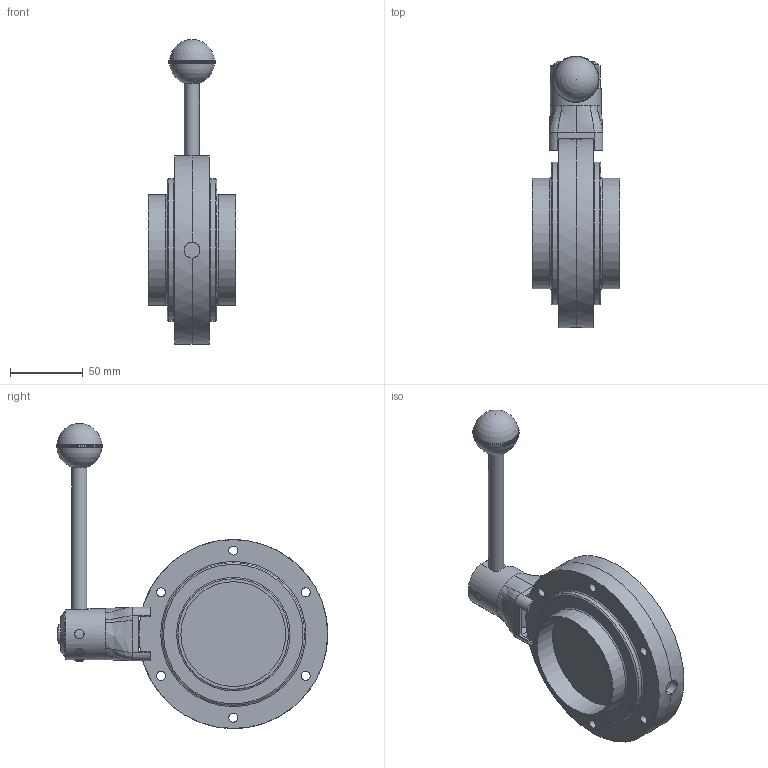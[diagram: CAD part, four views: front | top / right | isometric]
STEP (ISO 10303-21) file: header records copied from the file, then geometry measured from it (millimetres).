
FILE_DESCRIPTION(/* description */ ('VVF VALV.FARF.DN76.1 S/S EPDM 316 LEVA INOX 3POS.'),/* implementation_level */ '2;1');
FILE_NAME(/* name */ 'C:\_DED_PWS\ZIGN-L\DB\B\EBA\BEBAAL300BEBV-00^SAGOMA.step',/* time_stamp */ '2022-08-12T09:53:25+02:00',/* author */ (''),/* organization */ (''),/* preprocessor_version */ 'ST-DEVELOPER v18.1',/* originating_system */ 'Autodesk Inventor 2022',/* authorisation */ '');
FILE_SCHEMA (('CONFIG_CONTROL_DESIGN'));
Length unit declared in the file: millimetre
Products named in the file (3): BEBAAL300BEBV; TNU430100AAA; TWDBB0807
Assembly tree (3 placements, depth 2):
  BEBAAL300BEBV
    TNU430100AAA
    TWDBB0807  x2
Bounding box: 60 x 186.82 x 209.94 mm (x, y, z)
Volume: 471953.2 mm3; surface area: 112910.6 mm2
Topology: 4 solids, 5 shells, 563 faces, 1374 edges, 900 vertices
Faces by surface type: plane 368, torus 84, cylinder 58, bspline 38, cone 11, sphere 4
Full cylindrical faces by diameter (mm): 6 x2, 6.2 x12, 6.5 x3, 9 x2, 9.3 x1, 10 x1, 10.4 x1, 10.5 x1, 10.9 x1, 11.1 x2, 11.5 x2, 13.4 x1, 13.5 x2, 14.9 x1, 15.2 x1, 31.2 x1, 31.4 x1, 35.2 x1, 72.1 x2, 76.1 x2, 98 x2, 130 x2
Entity records: 22580 total; most frequent: CARTESIAN_POINT 9405, DIRECTION 2641, ORIENTED_EDGE 2626, EDGE_CURVE 1313, AXIS2_PLACEMENT_3D 1076, VERTEX_POINT 862, EDGE_LOOP 641, CIRCLE 568
